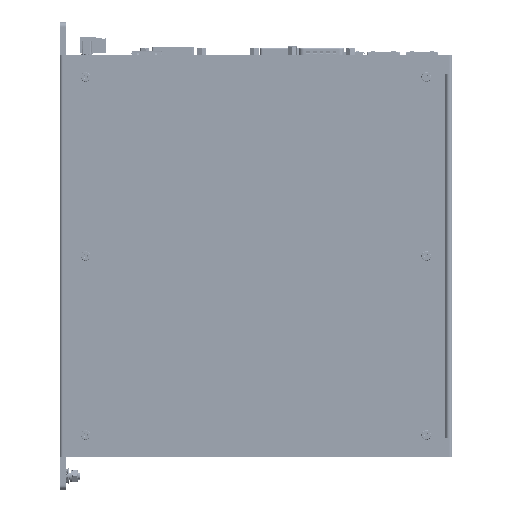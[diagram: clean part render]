
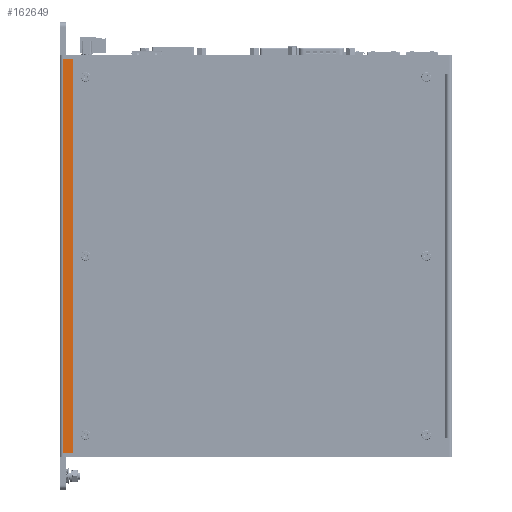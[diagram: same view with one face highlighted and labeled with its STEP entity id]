
A CAD part, front view. The second image highlights one B-rep face of the part: STEP entity #162649.
In plain terms, the highlighted planar face has unit normal (0, -1, 0) as drawn and (-1, 0, 0) by its records, which use the part's own axes.
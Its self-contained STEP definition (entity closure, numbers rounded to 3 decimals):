
#38761 = CARTESIAN_POINT ( 'NONE',  ( -45., -113., -2. ) ) ;
#93312 = VERTEX_POINT ( 'NONE', #855095 ) ;
#105121 = VECTOR ( 'NONE', #355876, 1000. ) ;
#136002 = DIRECTION ( 'NONE',  ( 0., 0., 1. ) ) ;
#155213 = PLANE ( 'NONE',  #207613 ) ;
#158108 = DIRECTION ( 'NONE',  ( -1., 0., 0. ) ) ;
#162649 = ADVANCED_FACE ( 'NONE', ( #604819 ), #155213, .T. ) ;
#188218 = CARTESIAN_POINT ( 'NONE',  ( -45., 113., -7.5 ) ) ;
#189229 = VERTEX_POINT ( 'NONE', #314129 ) ;
#207613 = AXIS2_PLACEMENT_3D ( 'NONE', #551150, #158108, #213171 ) ;
#213171 = DIRECTION ( 'NONE',  ( 0., 0., 1. ) ) ;
#216628 = ORIENTED_EDGE ( 'NONE', *, *, #304554, .F. ) ;
#259470 = EDGE_CURVE ( 'NONE', #93312, #326364, #281010, .T. ) ;
#262756 = ORIENTED_EDGE ( 'NONE', *, *, #824856, .F. ) ;
#281010 = LINE ( 'NONE', #364494, #105121 ) ;
#294424 = ORIENTED_EDGE ( 'NONE', *, *, #570313, .T. ) ;
#304554 = EDGE_CURVE ( 'NONE', #189229, #623594, #790594, .T. ) ;
#314129 = CARTESIAN_POINT ( 'NONE',  ( -45., 113., -2. ) ) ;
#326364 = VERTEX_POINT ( 'NONE', #516608 ) ;
#355876 = DIRECTION ( 'NONE',  ( 0., 1., 0. ) ) ;
#364494 = CARTESIAN_POINT ( 'NONE',  ( -45., -113., -7.5 ) ) ;
#439358 = DIRECTION ( 'NONE',  ( 0., 0., 1. ) ) ;
#450826 = LINE ( 'NONE', #188218, #813196 ) ;
#470273 = VECTOR ( 'NONE', #439358, 1000. ) ;
#491027 = LINE ( 'NONE', #702642, #470273 ) ;
#499419 = CARTESIAN_POINT ( 'NONE',  ( -45., 113., -2. ) ) ;
#505106 = DIRECTION ( 'NONE',  ( 0., -1., 0. ) ) ;
#516608 = CARTESIAN_POINT ( 'NONE',  ( -45., 113., -7.5 ) ) ;
#551150 = CARTESIAN_POINT ( 'NONE',  ( -45., -113., -19. ) ) ;
#570313 = EDGE_CURVE ( 'NONE', #93312, #623594, #491027, .T. ) ;
#604819 = FACE_OUTER_BOUND ( 'NONE', #644924, .T. ) ;
#623594 = VERTEX_POINT ( 'NONE', #38761 ) ;
#629452 = ORIENTED_EDGE ( 'NONE', *, *, #259470, .F. ) ;
#644924 = EDGE_LOOP ( 'NONE', ( #262756, #629452, #294424, #216628 ) ) ;
#702642 = CARTESIAN_POINT ( 'NONE',  ( -45., -113., -7.5 ) ) ;
#728100 = VECTOR ( 'NONE', #505106, 1000. ) ;
#790594 = LINE ( 'NONE', #499419, #728100 ) ;
#813196 = VECTOR ( 'NONE', #136002, 1000. ) ;
#824856 = EDGE_CURVE ( 'NONE', #326364, #189229, #450826, .T. ) ;
#855095 = CARTESIAN_POINT ( 'NONE',  ( -45., -113., -7.5 ) ) ;
